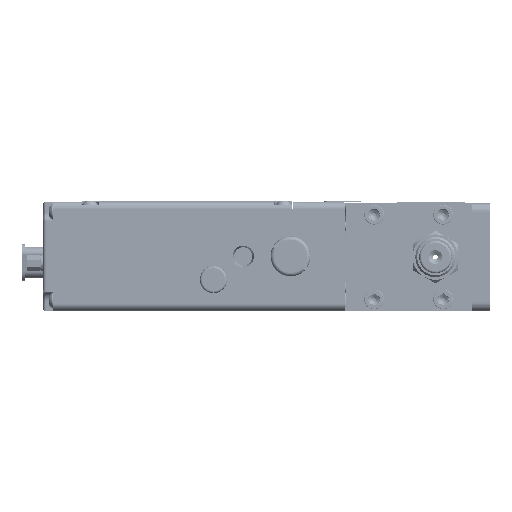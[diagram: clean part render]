
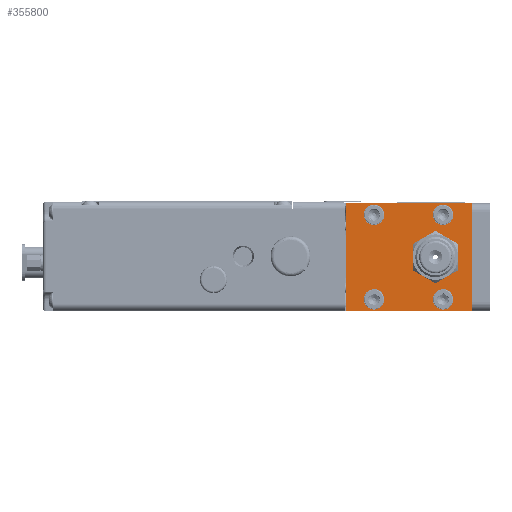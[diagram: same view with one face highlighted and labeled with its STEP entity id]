
A CAD part, left-side view. The second image highlights one B-rep face of the part: STEP entity #355800.
In plain terms, the highlighted planar face has unit normal (-1, 0, 0).
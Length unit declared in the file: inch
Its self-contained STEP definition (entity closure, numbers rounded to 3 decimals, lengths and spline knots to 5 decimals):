
#1245 = DIRECTION ( 'NONE',  ( -1., 0., 0. ) ) ;
#3048 = CARTESIAN_POINT ( 'NONE',  ( -2.28, 1.34425, -0.582 ) ) ;
#3398 = FACE_BOUND ( 'NONE', #209625, .T. ) ;
#11841 = EDGE_CURVE ( 'NONE', #209234, #158427, #201896, .T. ) ;
#12345 = VECTOR ( 'NONE', #247739, 39.37008 ) ;
#12431 = CIRCLE ( 'NONE', #157039, 0.1405 ) ;
#12685 = VERTEX_POINT ( 'NONE', #374360 ) ;
#14071 = CARTESIAN_POINT ( 'NONE',  ( -2.28, 1.34425, -0.582 ) ) ;
#14572 = EDGE_CURVE ( 'NONE', #362497, #200420, #138169, .T. ) ;
#29985 = DIRECTION ( 'NONE',  ( 0., -1., 0. ) ) ;
#30275 = CIRCLE ( 'NONE', #279290, 0.1405 ) ;
#34932 = CARTESIAN_POINT ( 'NONE',  ( -2.28, -0.00075, 0.7425 ) ) ;
#38442 = CARTESIAN_POINT ( 'NONE',  ( -2.28, 0.39425, 0.582 ) ) ;
#39164 = VERTEX_POINT ( 'NONE', #235543 ) ;
#40050 = CARTESIAN_POINT ( 'NONE',  ( -2.28, 0.39425, -0.582 ) ) ;
#41034 = AXIS2_PLACEMENT_3D ( 'NONE', #232460, #1245, #154560 ) ;
#43541 = PLANE ( 'NONE',  #181824 ) ;
#46178 = CARTESIAN_POINT ( 'NONE',  ( -2.28, 1.34425, 0.4415 ) ) ;
#58254 = DIRECTION ( 'NONE',  ( 1., 0., 0. ) ) ;
#58829 = ORIENTED_EDGE ( 'NONE', *, *, #400311, .F. ) ;
#60095 = ORIENTED_EDGE ( 'NONE', *, *, #14572, .F. ) ;
#72046 = ORIENTED_EDGE ( 'NONE', *, *, #95372, .F. ) ;
#73858 = FACE_BOUND ( 'NONE', #343371, .T. ) ;
#77626 = AXIS2_PLACEMENT_3D ( 'NONE', #14071, #84612, #232938 ) ;
#84612 = DIRECTION ( 'NONE',  ( -1., 0., 0. ) ) ;
#87720 = ORIENTED_EDGE ( 'NONE', *, *, #351943, .T. ) ;
#91431 = LINE ( 'NONE', #131539, #137417 ) ;
#91975 = VERTEX_POINT ( 'NONE', #326549 ) ;
#95372 = EDGE_CURVE ( 'NONE', #148813, #39164, #446861, .T. ) ;
#95473 = DIRECTION ( 'NONE',  ( 1., 0., 0. ) ) ;
#96473 = ORIENTED_EDGE ( 'NONE', *, *, #475870, .F. ) ;
#100568 = LINE ( 'NONE', #253834, #370007 ) ;
#100909 = EDGE_CURVE ( 'NONE', #91975, #478501, #328267, .T. ) ;
#113069 = CARTESIAN_POINT ( 'NONE',  ( -2.28, 1.72725, 0.7425 ) ) ;
#115421 = EDGE_CURVE ( 'NONE', #39164, #148813, #233531, .T. ) ;
#118936 = DIRECTION ( 'NONE',  ( 0., 0., -1. ) ) ;
#125790 = DIRECTION ( 'NONE',  ( 0., 1., 0. ) ) ;
#131329 = EDGE_LOOP ( 'NONE', ( #159041, #96473 ) ) ;
#131539 = CARTESIAN_POINT ( 'NONE',  ( -2.28, -0.00075, -0.7425 ) ) ;
#132520 = AXIS2_PLACEMENT_3D ( 'NONE', #40050, #462427, #490198 ) ;
#137417 = VECTOR ( 'NONE', #279930, 39.37008 ) ;
#138169 = LINE ( 'NONE', #34932, #314467 ) ;
#139585 = CARTESIAN_POINT ( 'NONE',  ( -2.28, 1.72725, -0.7425 ) ) ;
#139641 = CIRCLE ( 'NONE', #203932, 0.1405 ) ;
#141396 = VERTEX_POINT ( 'NONE', #240431 ) ;
#145042 = ORIENTED_EDGE ( 'NONE', *, *, #207674, .F. ) ;
#148813 = VERTEX_POINT ( 'NONE', #234859 ) ;
#149980 = DIRECTION ( 'NONE',  ( 0., 0., -1. ) ) ;
#154560 = DIRECTION ( 'NONE',  ( 0., 0., -1. ) ) ;
#157039 = AXIS2_PLACEMENT_3D ( 'NONE', #483708, #219755, #491181 ) ;
#158427 = VERTEX_POINT ( 'NONE', #250917 ) ;
#159041 = ORIENTED_EDGE ( 'NONE', *, *, #11841, .F. ) ;
#171461 = CARTESIAN_POINT ( 'NONE',  ( -2.28, 0.49925, 0. ) ) ;
#179328 = AXIS2_PLACEMENT_3D ( 'NONE', #171461, #58254, #430582 ) ;
#179533 = CARTESIAN_POINT ( 'NONE',  ( -2.28, 1.34425, 0.582 ) ) ;
#181641 = VERTEX_POINT ( 'NONE', #46178 ) ;
#181824 = AXIS2_PLACEMENT_3D ( 'NONE', #463428, #234620, #199435 ) ;
#181916 = VERTEX_POINT ( 'NONE', #204520 ) ;
#187662 = CIRCLE ( 'NONE', #179328, 0.179 ) ;
#189022 = VERTEX_POINT ( 'NONE', #409934 ) ;
#189480 = FACE_BOUND ( 'NONE', #473176, .T. ) ;
#196957 = FACE_BOUND ( 'NONE', #380536, .T. ) ;
#198132 = CARTESIAN_POINT ( 'NONE',  ( -2.28, -0.00075, -0.7425 ) ) ;
#199435 = DIRECTION ( 'NONE',  ( 0., 0., 1. ) ) ;
#200420 = VERTEX_POINT ( 'NONE', #386289 ) ;
#201896 = CIRCLE ( 'NONE', #41034, 0.1405 ) ;
#203932 = AXIS2_PLACEMENT_3D ( 'NONE', #265579, #376333, #149980 ) ;
#204520 = CARTESIAN_POINT ( 'NONE',  ( -2.28, 0.39425, -0.4415 ) ) ;
#205875 = DIRECTION ( 'NONE',  ( 0., 0., -1. ) ) ;
#207674 = EDGE_CURVE ( 'NONE', #12685, #181641, #281405, .T. ) ;
#209234 = VERTEX_POINT ( 'NONE', #368373 ) ;
#209625 = EDGE_LOOP ( 'NONE', ( #312044, #87720 ) ) ;
#213698 = DIRECTION ( 'NONE',  ( 0., 0., -1. ) ) ;
#219755 = DIRECTION ( 'NONE',  ( -1., 0., 0. ) ) ;
#224990 = CARTESIAN_POINT ( 'NONE',  ( -2.28, 0.67825, 0. ) ) ;
#232460 = CARTESIAN_POINT ( 'NONE',  ( -2.28, 0.39425, 0.582 ) ) ;
#232938 = DIRECTION ( 'NONE',  ( 0., 0., -1. ) ) ;
#233531 = CIRCLE ( 'NONE', #321753, 0.1405 ) ;
#234620 = DIRECTION ( 'NONE',  ( 1., 0., 0. ) ) ;
#234859 = CARTESIAN_POINT ( 'NONE',  ( -2.28, 1.34425, -0.4415 ) ) ;
#235543 = CARTESIAN_POINT ( 'NONE',  ( -2.28, 1.34425, -0.7225 ) ) ;
#239433 = DIRECTION ( 'NONE',  ( -1., 0., 0. ) ) ;
#240431 = CARTESIAN_POINT ( 'NONE',  ( -2.28, 0.39425, -0.7225 ) ) ;
#240776 = ORIENTED_EDGE ( 'NONE', *, *, #313889, .F. ) ;
#247739 = DIRECTION ( 'NONE',  ( 0., 0., 1. ) ) ;
#250917 = CARTESIAN_POINT ( 'NONE',  ( -2.28, 0.39425, 0.7225 ) ) ;
#253834 = CARTESIAN_POINT ( 'NONE',  ( -2.28, -0.00075, -0.7425 ) ) ;
#255289 = ORIENTED_EDGE ( 'NONE', *, *, #434824, .F. ) ;
#257406 = DIRECTION ( 'NONE',  ( 0., 0., -1. ) ) ;
#265579 = CARTESIAN_POINT ( 'NONE',  ( -2.28, 1.34425, 0.582 ) ) ;
#271639 = ORIENTED_EDGE ( 'NONE', *, *, #115421, .F. ) ;
#279290 = AXIS2_PLACEMENT_3D ( 'NONE', #38442, #239433, #118936 ) ;
#279930 = DIRECTION ( 'NONE',  ( 0., 1., 0. ) ) ;
#281405 = CIRCLE ( 'NONE', #297571, 0.1405 ) ;
#297571 = AXIS2_PLACEMENT_3D ( 'NONE', #179533, #448499, #257406 ) ;
#301121 = EDGE_CURVE ( 'NONE', #189022, #362497, #323131, .T. ) ;
#312044 = ORIENTED_EDGE ( 'NONE', *, *, #100909, .T. ) ;
#313889 = EDGE_CURVE ( 'NONE', #181641, #12685, #139641, .T. ) ;
#314467 = VECTOR ( 'NONE', #29985, 39.37008 ) ;
#321753 = AXIS2_PLACEMENT_3D ( 'NONE', #3048, #401782, #205875 ) ;
#323131 = LINE ( 'NONE', #139585, #12345 ) ;
#326549 = CARTESIAN_POINT ( 'NONE',  ( -2.28, 0.32025, 0. ) ) ;
#328267 = CIRCLE ( 'NONE', #416672, 0.179 ) ;
#342747 = FACE_OUTER_BOUND ( 'NONE', #481354, .T. ) ;
#343371 = EDGE_LOOP ( 'NONE', ( #271639, #72046 ) ) ;
#350170 = FACE_BOUND ( 'NONE', #131329, .T. ) ;
#351490 = VERTEX_POINT ( 'NONE', #198132 ) ;
#351943 = EDGE_CURVE ( 'NONE', #478501, #91975, #187662, .T. ) ;
#355800 = ADVANCED_FACE ( 'NONE', ( #3398, #73858, #189480, #350170, #196957, #342747 ), #43541, .F. ) ;
#359397 = CARTESIAN_POINT ( 'NONE',  ( -2.28, 0.49925, 0. ) ) ;
#362497 = VERTEX_POINT ( 'NONE', #113069 ) ;
#368373 = CARTESIAN_POINT ( 'NONE',  ( -2.28, 0.39425, 0.4415 ) ) ;
#370007 = VECTOR ( 'NONE', #213698, 39.37008 ) ;
#373399 = CIRCLE ( 'NONE', #132520, 0.1405 ) ;
#374360 = CARTESIAN_POINT ( 'NONE',  ( -2.28, 1.34425, 0.7225 ) ) ;
#376333 = DIRECTION ( 'NONE',  ( -1., 0., 0. ) ) ;
#380536 = EDGE_LOOP ( 'NONE', ( #425623, #58829 ) ) ;
#386289 = CARTESIAN_POINT ( 'NONE',  ( -2.28, -0.00075, 0.7425 ) ) ;
#388255 = ORIENTED_EDGE ( 'NONE', *, *, #437251, .F. ) ;
#400311 = EDGE_CURVE ( 'NONE', #181916, #141396, #373399, .T. ) ;
#401782 = DIRECTION ( 'NONE',  ( -1., 0., 0. ) ) ;
#404567 = ORIENTED_EDGE ( 'NONE', *, *, #301121, .F. ) ;
#409934 = CARTESIAN_POINT ( 'NONE',  ( -2.28, 1.72725, -0.7425 ) ) ;
#416672 = AXIS2_PLACEMENT_3D ( 'NONE', #359397, #95473, #125790 ) ;
#425623 = ORIENTED_EDGE ( 'NONE', *, *, #469640, .F. ) ;
#430582 = DIRECTION ( 'NONE',  ( 0., 1., 0. ) ) ;
#434824 = EDGE_CURVE ( 'NONE', #200420, #351490, #100568, .T. ) ;
#437251 = EDGE_CURVE ( 'NONE', #351490, #189022, #91431, .T. ) ;
#446861 = CIRCLE ( 'NONE', #77626, 0.1405 ) ;
#448499 = DIRECTION ( 'NONE',  ( -1., 0., 0. ) ) ;
#462427 = DIRECTION ( 'NONE',  ( -1., 0., 0. ) ) ;
#463428 = CARTESIAN_POINT ( 'NONE',  ( -2.28, 0.86325, 0. ) ) ;
#469640 = EDGE_CURVE ( 'NONE', #141396, #181916, #12431, .T. ) ;
#473176 = EDGE_LOOP ( 'NONE', ( #240776, #145042 ) ) ;
#475870 = EDGE_CURVE ( 'NONE', #158427, #209234, #30275, .T. ) ;
#478501 = VERTEX_POINT ( 'NONE', #224990 ) ;
#481354 = EDGE_LOOP ( 'NONE', ( #60095, #404567, #388255, #255289 ) ) ;
#483708 = CARTESIAN_POINT ( 'NONE',  ( -2.28, 0.39425, -0.582 ) ) ;
#490198 = DIRECTION ( 'NONE',  ( 0., 0., -1. ) ) ;
#491181 = DIRECTION ( 'NONE',  ( 0., 0., -1. ) ) ;
